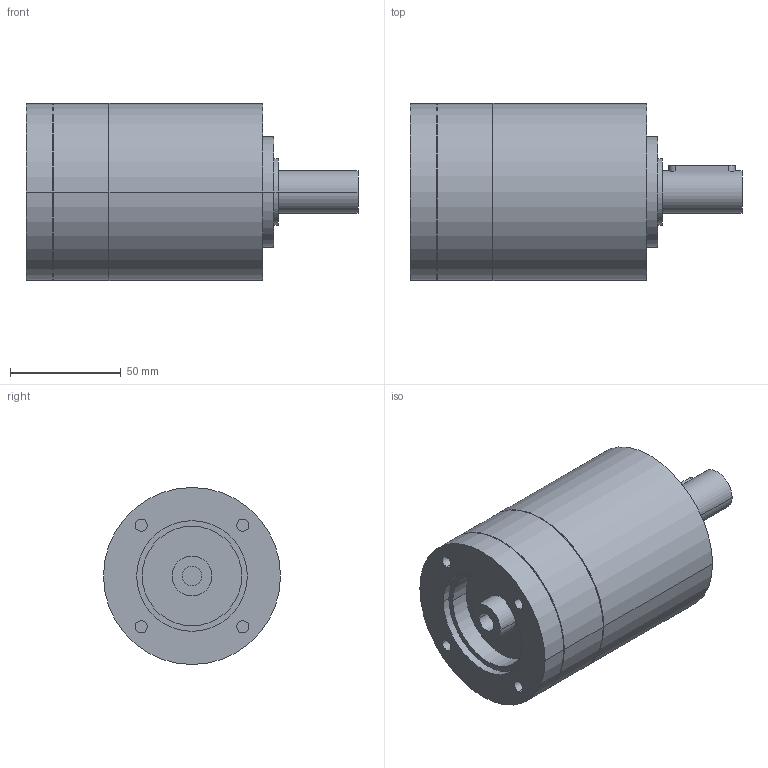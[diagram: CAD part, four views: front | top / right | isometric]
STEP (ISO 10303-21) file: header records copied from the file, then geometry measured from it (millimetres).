
FILE_DESCRIPTION(('CoCreate Modeling STEP Export'),'2;1');
FILE_NAME('GPR100_ig-3-4-5-6_19_B14_9_P10.stp','2014-08-26T10:53:33',(''),(''),'CoCreate Modeling STEP processor for AP214 (Solid Model)','CoCreate Modeling 16.00C 25-Feb-2009 (C) Parametric Technology GmbH','');
FILE_SCHEMA(('AUTOMOTIVE_DESIGN { 1 0 10303 214 1 1 1 1 }'));
Length unit declared in the file: millimetre
Products named in the file (2): GPR100_ig-3-4-5-6_19_B14_9_P10
Assembly tree (1 placements, depth 2):
  GPR100_ig-3-4-5-6_19_B14_9_P10
    GPR100_ig-3-4-5-6_19_B14_9_P10
Bounding box: 150 x 80 x 80 mm (x, y, z)
Volume: 535796.5 mm3; surface area: 46436.3 mm2
Topology: 1 solids, 1 shells, 80 faces, 203 edges, 145 vertices
Faces by surface type: cylinder 48, plane 26, cone 6
Entity records: 2036 total; most frequent: ORIENTED_EDGE 402, CARTESIAN_POINT 371, DIRECTION 264, EDGE_CURVE 201, VERTEX_POINT 145, AXIS2_PLACEMENT_3D 102, EDGE_LOOP 102, FACE_OUTER_BOUND 80
